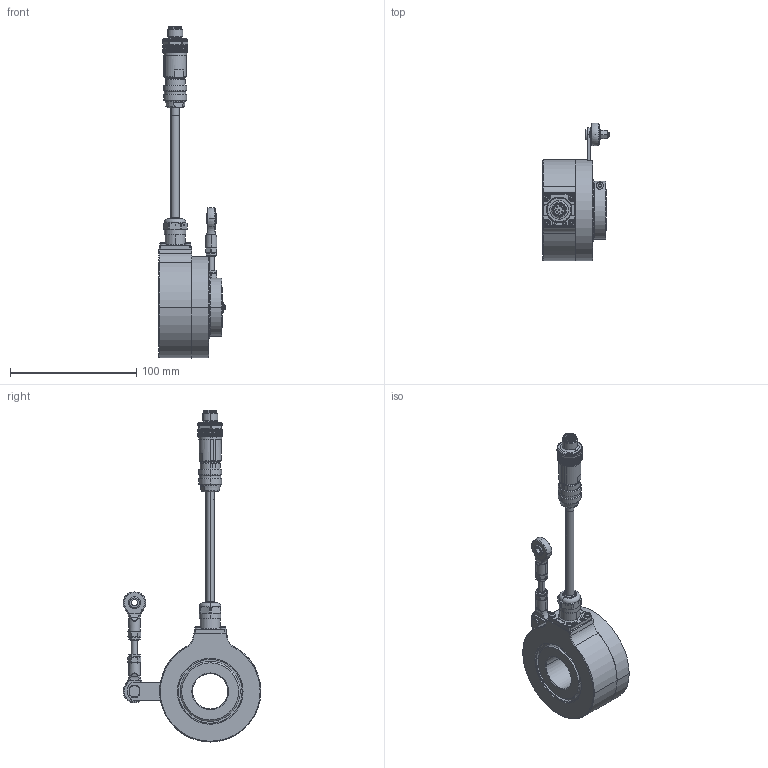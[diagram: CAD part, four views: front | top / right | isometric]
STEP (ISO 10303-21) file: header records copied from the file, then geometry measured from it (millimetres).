
FILE_DESCRIPTION (( 'STEP AP203' ), '1' );
FILE_NAME ('K80I.OXX.XXXXX.XH15828.6XR12.XXXX.step', '2025-12-09T08:00:16', ( '' ), ( '' ), 'SwSTEP 2.0', 'SolidWorks 2021', '' );
FILE_SCHEMA (( 'CONFIG_CONTROL_DESIGN' ));
Length unit declared in the file: millimetre
Products named in the file (1): K80I.OXX.XXXXX.XH15828.6XR12.XXXX
Bounding box: 52.6 x 108.97 x 262.56 mm (x, y, z)
Volume: 221483.2 mm3; surface area: 71522.1 mm2
Topology: 25 solids, 25 shells, 1843 faces, 4553 edges, 2768 vertices
Faces by surface type: plane 678, cylinder 583, cone 365, bspline 106, torus 65, sphere 46
Entity records: 58512 total; most frequent: CARTESIAN_POINT 16413, ORIENTED_EDGE 8966, DIRECTION 8659, EDGE_CURVE 4483, AXIS2_PLACEMENT_3D 3446, VERTEX_POINT 2748, EDGE_LOOP 1937, ADVANCED_FACE 1843
